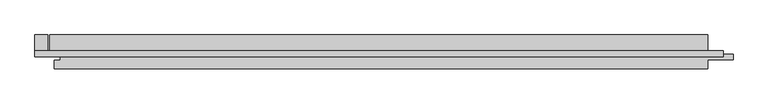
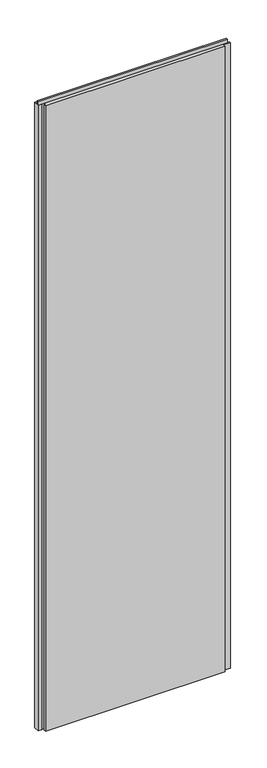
"""IFC4 building model written with IfcOpenShell, lengths in millimetres: plate geometry, Trimo_Qbiss Screen_Normal Panel-VERTICAL : HR - B."""

import ifcopenshell
import ifcopenshell.guid

model = None  # the IFC model being written
_history = None  # IfcOwnerHistory: only IFC2X3 demands one
_inside = {}  # id of a spatial element -> (the spatial element, [elements in it])
_under = {}  # id of a project, library or spatial element -> (it, [spatial elements below it])
_declared = {}  # id of a project -> (the project, [libraries it declares])
_typed = {}  # id of a type object -> (the type object, [elements of that type])
_made_of = {}  # id of a material, layer set ... -> (it, [elements and type objects made of it])


def new_model(schema):
    """Start an empty IFC model of exactly this schema.

    Asked for "IFC4X3", IfcOpenShell would pick the latest addendum, in which some entities
    have other attributes; the version numbers below select the first issue.
    IFC2X3 requires an IfcOwnerHistory on every rooted entity: one is made here for all.
    """
    global model, _history
    if schema == "IFC4X3":
        model = ifcopenshell.file(schema_version=(4, 3, 0, 0))
    else:
        model = ifcopenshell.file(schema=schema)
    _inside.clear()
    _under.clear()
    _declared.clear()
    _typed.clear()
    _made_of.clear()
    _history = None
    if model.schema == "IFC2X3":
        org = make("IfcOrganization", Name="unknown")
        user = make(
            "IfcPersonAndOrganization",
            ThePerson=make("IfcPerson", FamilyName="unknown"),
            TheOrganization=org,
        )
        app = make(
            "IfcApplication",
            ApplicationDeveloper=org,
            Version="unknown",
            ApplicationFullName="unknown",
            ApplicationIdentifier="unknown",
        )
        _history = make(
            "IfcOwnerHistory",
            OwningUser=user,
            OwningApplication=app,
            ChangeAction="ADDED",
            CreationDate=0,
        )
    return model


def make(cls, **values):
    """One entity of the class cls with the attributes given. An attribute that is None is left unset."""
    return model.create_entity(
        cls, **{name: value for name, value in values.items() if value is not None}
    )


def rooted(cls, **values):
    """An entity with a GlobalId (a new one), such as an element, a storey or a relation."""
    return make(cls, GlobalId=ifcopenshell.guid.new(), OwnerHistory=_history, **values)


def si_unit(unit_type, name, prefix=None):
    """IfcSIUnit, for example si_unit("LENGTHUNIT", "METRE", prefix="MILLI")."""
    return make("IfcSIUnit", UnitType=unit_type, Prefix=prefix, Name=name)


def assignment(units):
    """IfcUnitAssignment: the units of a project."""
    return None if units is None else make("IfcUnitAssignment", Units=units)


def point(xyz):
    """IfcCartesianPoint."""
    return None if xyz is None else make("IfcCartesianPoint", Coordinates=xyz)


def direction(xyz):
    """IfcDirection."""
    return None if xyz is None else make("IfcDirection", DirectionRatios=xyz)


def frame(location, z_axis=None, x_axis=None):
    """IfcAxis2Placement3D, a coordinate frame: its origin and axes. An axis left out is left unset."""
    return make(
        "IfcAxis2Placement3D",
        Location=point(location),
        Axis=direction(z_axis),
        RefDirection=direction(x_axis),
    )


def origin():
    """The frame at (0, 0, 0) with its axes left unset."""
    return frame((0.0, 0.0, 0.0))


def place(relative_to, where):
    """IfcLocalPlacement: puts the frame where relative to a parent placement (None: the world)."""
    return make(
        "IfcLocalPlacement", PlacementRelTo=relative_to, RelativePlacement=where
    )


def context(
    kind, dimensions, precision=None, world=None, true_north=None, identifier=None
):
    """IfcGeometricRepresentationContext, for example the 3D "Model" context."""
    return make(
        "IfcGeometricRepresentationContext",
        ContextIdentifier=identifier,
        ContextType=kind,
        CoordinateSpaceDimension=dimensions,
        Precision=precision,
        WorldCoordinateSystem=world,
        TrueNorth=true_north,
    )


def project(units=None, contexts=None):
    """IfcProject with its units and contexts."""
    return rooted(
        "IfcProject",
        Name="project",
        RepresentationContexts=contexts,
        UnitsInContext=assignment(units),
    )


def spatial(cls, under=None, at=None, **own):
    """A site, building, storey or space (cls), placed at a placement, below another one or the project."""
    s = rooted(cls, ObjectPlacement=at, **own)
    if under is not None:
        _under.setdefault(under.id(), (under, []))[1].append(s)
    return s


def polyline(points):
    """IfcPolyline through the points."""
    return make("IfcPolyline", Points=[point(p) for p in points])


def outline(outer, holes=None, kind="AREA"):
    """IfcArbitraryClosedProfileDef: a profile drawn as a closed curve; with holes, ...WithVoids."""
    if holes is None:
        return make("IfcArbitraryClosedProfileDef", ProfileType=kind, OuterCurve=outer)
    return make(
        "IfcArbitraryProfileDefWithVoids",
        ProfileType=kind,
        OuterCurve=outer,
        InnerCurves=holes,
    )


def extrude(swept, where, along, depth):
    """IfcExtrudedAreaSolid: the profile swept, set in the frame where, extruded along a direction by depth."""
    return make(
        "IfcExtrudedAreaSolid",
        SweptArea=swept,
        Position=where,
        ExtrudedDirection=direction(along),
        Depth=depth,
    )


def shape(context_of_items, identifier, shape_type, items):
    """IfcShapeRepresentation: the items that make up one representation, for example the "Body"."""
    return make(
        "IfcShapeRepresentation",
        ContextOfItems=context_of_items,
        RepresentationIdentifier=identifier,
        RepresentationType=shape_type,
        Items=items,
    )


def source(mapping_origin, context_of_items, identifier, shape_type, items):
    """IfcRepresentationMap: a shape defined once, which mapped items show again and again."""
    return make(
        "IfcRepresentationMap",
        MappingOrigin=mapping_origin,
        MappedRepresentation=shape(context_of_items, identifier, shape_type, items),
    )


def transform(
    local_origin,
    x_axis=None,
    y_axis=None,
    z_axis=None,
    scale=None,
    scale2=None,
    scale3=None,
    uniform=True,
):
    """IfcCartesianTransformationOperator3D, or its non-uniform kind. x_axis, y_axis, z_axis: its Axis1, 2, 3."""
    if uniform:
        return make(
            "IfcCartesianTransformationOperator3D",
            Axis1=direction(x_axis),
            Axis2=direction(y_axis),
            LocalOrigin=point(local_origin),
            Scale=scale,
            Axis3=direction(z_axis),
        )
    return make(
        "IfcCartesianTransformationOperator3DnonUniform",
        Axis1=direction(x_axis),
        Axis2=direction(y_axis),
        LocalOrigin=point(local_origin),
        Scale=scale,
        Axis3=direction(z_axis),
        Scale2=scale2,
        Scale3=scale3,
    )


def mapped(mapping_source, mapping_target):
    """IfcMappedItem: shows the shape of a source again, moved by a transform."""
    return make(
        "IfcMappedItem", MappingSource=mapping_source, MappingTarget=mapping_target
    )


def made_of(thing, what):
    """Note that an element or type object is made of a material, layer set ...; save() writes the relation."""
    if what is not None:
        _made_of.setdefault(what.id(), (what, []))[1].append(thing)
    return thing


def element(
    cls,
    number,
    at=None,
    inside=None,
    cuts=None,
    type_object=None,
    material=None,
    context=None,
    identifier="Body",
    shape_type=None,
    held_by="IfcProductDefinitionShape",
    body=None,
    shapes=None,
    **own,
):
    """One element of the class cls, such as IfcWall. Its Tag is "e" and its number.

    at: its placement. inside: the storey or other place that contains it. cuts: it is an
    opening in that element (IfcRelVoidsElement). A single representation is given by context,
    identifier, shape_type and body (its items); several are given by shapes. held_by: the class
    of the entity that holds the representations. save() writes the other relations.
    """
    e = rooted(cls, Tag="e%d" % number, ObjectPlacement=at, **own)
    if body is not None:
        shapes = [shape(context, identifier, shape_type, body)]
    if shapes is not None:
        e.Representation = make(held_by, Representations=shapes)
    if inside is not None:
        _inside.setdefault(inside.id(), (inside, []))[1].append(e)
    if cuts is not None:
        rooted(
            "IfcRelVoidsElement", RelatingBuildingElement=cuts, RelatedOpeningElement=e
        )
    if type_object is not None:
        _typed.setdefault(type_object.id(), (type_object, []))[1].append(e)
    return made_of(e, material)


def aggregate(whole, parts):
    """IfcRelAggregates: a whole, such as a stair, and the parts it consists of."""
    return rooted("IfcRelAggregates", RelatingObject=whole, RelatedObjects=parts)


def save(model, path):
    """Write the relations noted so far, then the file.

    IfcRelAggregates (storeys below a building ...), IfcRelContainedInSpatialStructure (elements
    in a storey), IfcRelDefinesByType, IfcRelAssociatesMaterial and IfcRelDeclares: one each for
    every whole, place, type object, material and project.
    """
    for whole, parts in _under.values():
        aggregate(whole, parts)
    for where, things in _inside.values():
        rooted(
            "IfcRelContainedInSpatialStructure",
            RelatedElements=things,
            RelatingStructure=where,
        )
    for kind, things in _typed.values():
        rooted("IfcRelDefinesByType", RelatedObjects=things, RelatingType=kind)
    for what, things in _made_of.values():
        rooted("IfcRelAssociatesMaterial", RelatedObjects=things, RelatingMaterial=what)
    for by, libraries in _declared.values():
        rooted("IfcRelDeclares", RelatingContext=by, RelatedDefinitions=libraries)
    model.write(path)


def plate_bde4079e(model_context):
    return source(origin(), model_context, "Body", "SweptSolid", [
        extrude(outline(polyline([(-523.0, 97.0), (-523.0, 126.0), (-504.0, 126.0), (-504.0, 97.0), (-523.0, 97.0)])), frame((0.0, 0.0, 12.5), z_axis=(0.0, 0.0, 1.0), x_axis=(1.0, 0.0, 0.0)), (0.0, 0.0, 1.0), 3575.0),
        extrude(outline(polyline([(478.0, 97.0), (478.0, 102.6), (499.0, 102.6), (499.0, 97.0), (478.0, 97.0)])), frame((0.0, 0.0, 12.5), z_axis=(0.0, 0.0, 1.0), x_axis=(1.0, 0.0, 0.0)), (0.0, 0.0, 1.0), 3575.0),
        extrude(outline(polyline([(-523.0, 93.9), (-523.0, 102.6), (500.0, 102.6), (500.0, 93.9), (-523.0, 93.9)])), frame((0.0, 0.0, 3590.5), z_axis=(0.0, 0.0, 1.0), x_axis=(1.0, 0.0, 0.0)), (0.0, 0.0, 1.0), 19.0),
        extrude(outline(polyline([(477.0, 97.0), (514.5, 97.0), (514.5, 89.0), (477.0, 89.0), (477.0, 76.0), (-494.0, 76.0), (-494.0, 88.0), (-485.5, 88.0), (-485.5, 98.0), (-501.0, 98.0), (-501.0, 126.0), (477.0, 126.0), (477.0, 97.0)])), frame((0.0, 0.0, 12.5), z_axis=(0.0, 0.0, 1.0), x_axis=(1.0, 0.0, 0.0)), (0.0, 0.0, 1.0), 3575.0),
    ])


if __name__ == "__main__":
    model = new_model("IFC4")
    model_context = context("Model", 3, world=origin())
    ifc_project = project(units=[si_unit("LENGTHUNIT", "METRE", prefix="MILLI")], contexts=[model_context])
    site = spatial("IfcSite", under=ifc_project)
    building = spatial("IfcBuilding", under=site)
    placement = place(None, origin())
    plate_shape = plate_bde4079e(model_context)
    element("IfcPlate", 1, ObjectType="Trimo_Qbiss Screen_Normal Panel-VERTICAL : HR - B", at=placement, inside=building, context=model_context, shape_type="MappedRepresentation", body=[
        mapped(plate_shape, transform((0.0, 0.0, 0.0), x_axis=(1.0, 0.0, 0.0), y_axis=(0.0, 1.0, 0.0), z_axis=(0.0, 0.0, 1.0))),
    ])
    save(model, "model.ifc")
